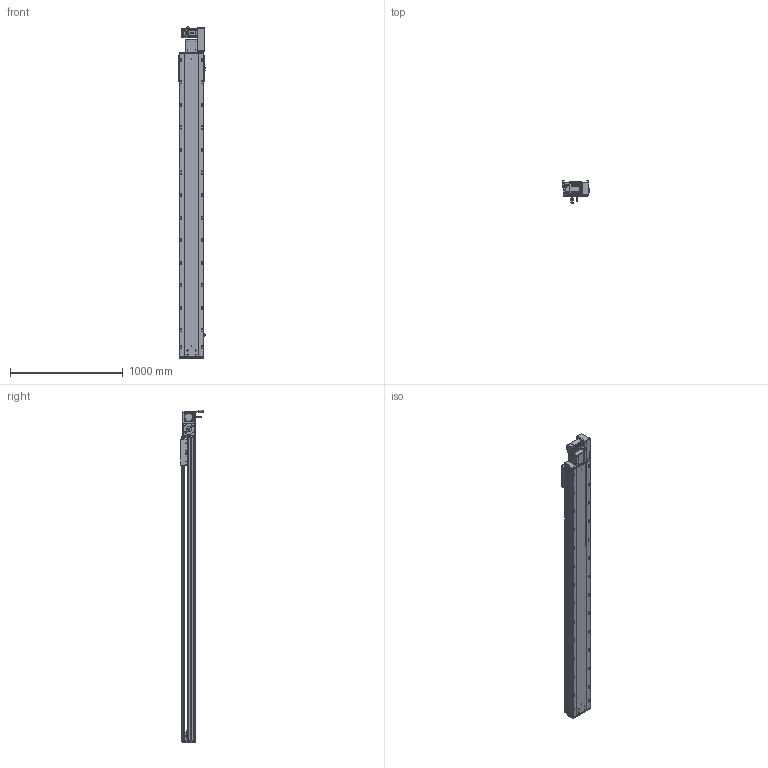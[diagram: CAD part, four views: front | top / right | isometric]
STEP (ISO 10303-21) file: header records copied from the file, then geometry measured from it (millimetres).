
FILE_DESCRIPTION (( 'STEP AP203' ), '1' );
FILE_NAME ('RY220-T-300-RK.SLDASM_2350.step', '2022-07-25T08:24:53', ( '' ), ( '' ), 'SwSTEP 2.0', 'SolidWorks 2016', '' );
FILE_SCHEMA (( 'CONFIG_CONTROL_DESIGN' ));
Length unit declared in the file: millimetre
Products named in the file (14): RY220-T-蛌殏萇儂假蚾啣(750W); RY220圉猾敕々湍臏賑輸; RY220-同步轮副支撑座6304×2; RY220-T-300-RK.SLDASM_2350; RY220-俋离672覜茼んえ; RY220翋肮祭謫釱; RY220-T菁釱-300_2350; RY220-T-湍謫欶(鍼踢); 覜茼ん672; 滅袉蝶18-15; RY220-T-300-奻裔啣_2350; 110A-T-肮祭謫釱傷裔; RY220翋肮祭謫裔啣; 怢湛750W_ECMA-CX0807ES
Assembly tree (18 placements, depth 2):
  RY220-T-300-RK.SLDASM_2350
    RY220-T菁釱-300_2350
    RY220翋肮祭謫釱
    覜茼ん672  x3
    RY220圉猾敕々湍臏賑輸
    RY220-T-300-奻裔啣_2350
    RY220-俋离672覜茼んえ
    滅袉蝶18-15  x3
    RY220翋肮祭謫裔啣  x2
    110A-T-肮祭謫釱傷裔
    怢湛750W_ECMA-CX0807ES
    RY220-T-湍謫欶(鍼踢)
    RY220-T-蛌殏萇儂假蚾啣(750W)
    RY220-同步轮副支撑座6304×2
Bounding box: 238.7 x 198.77 x 2945.24 mm (x, y, z)
Volume: 20997117.7 mm3; surface area: 6427906.3 mm2
Topology: 19 solids, 19 shells, 2898 faces, 8011 edges, 5034 vertices
Faces by surface type: cylinder 1410, plane 1069, cone 337, bspline 56, sphere 16, torus 10
Entity records: 96579 total; most frequent: CARTESIAN_POINT 27323, ORIENTED_EDGE 14330, DIRECTION 13760, EDGE_CURVE 7165, AXIS2_PLACEMENT_3D 4940, VERTEX_POINT 4658, VECTOR 3880, LINE 3880
